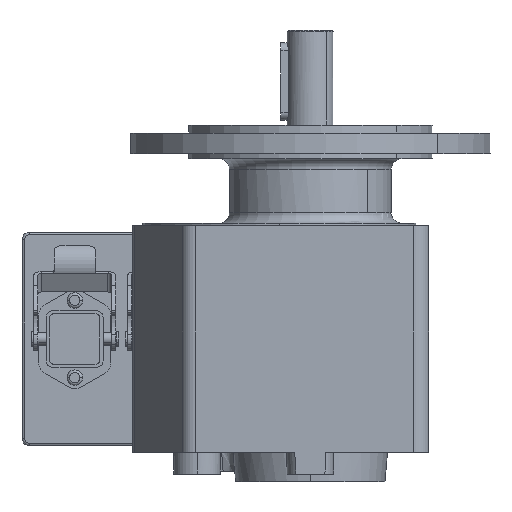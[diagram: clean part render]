
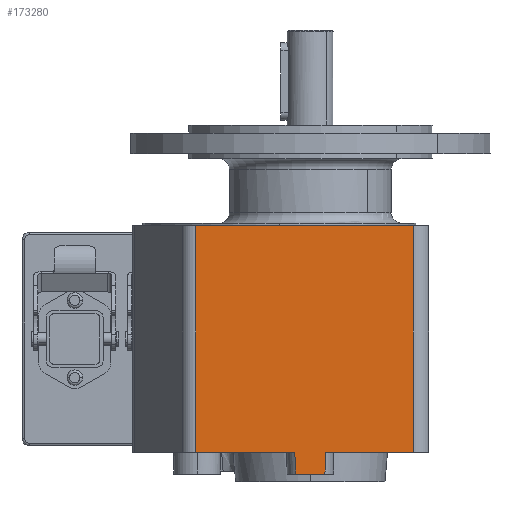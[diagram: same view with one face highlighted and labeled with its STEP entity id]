
A CAD part, left-side view. The second image highlights one B-rep face of the part: STEP entity #173280.
In plain terms, the highlighted planar face has unit normal (-1, 0, 0) as drawn and (0, 0, 1) by its records, which use the part's own axes.
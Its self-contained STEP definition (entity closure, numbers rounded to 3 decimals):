
#156040=CARTESIAN_POINT('',(-89.458,-334.478,262.5));
#156050=VERTEX_POINT('',#156040);
#156080=CARTESIAN_POINT('',(-89.458,-188.577,262.5));
#156090=DIRECTION('',(0.,1.,0.));
#156100=VECTOR('',#156090,1.);
#156110=LINE('',#156080,#156100);
#156120=CARTESIAN_POINT('',(-89.458,-249.942,262.5));
#156130=VERTEX_POINT('',#156120);
#156140=EDGE_CURVE('',#156050,#156130,#156110,.T.);
#170770=CARTESIAN_POINT('',(-177.458,-334.478,262.5));
#170780=VERTEX_POINT('',#170770);
#170810=CARTESIAN_POINT('',(-94.231,-334.478,262.5));
#170820=DIRECTION('',(1.,0.,0.));
#170830=VECTOR('',#170820,1.);
#170840=LINE('',#170810,#170830);
#170850=EDGE_CURVE('',#170780,#156050,#170840,.T.);
#172450=CARTESIAN_POINT('',(-94.231,-249.942,262.5));
#172460=DIRECTION('',(1.,0.,0.));
#172470=VECTOR('',#172460,1.);
#172480=LINE('',#172450,#172470);
#172490=CARTESIAN_POINT('',(-177.458,-249.942,262.5));
#172500=VERTEX_POINT('',#172490);
#172510=EDGE_CURVE('',#172500,#156130,#172480,.T.);
#172640=CARTESIAN_POINT('',(-94.231,-188.577,262.5));
#172650=DIRECTION('',(0.,0.,1.));
#172660=DIRECTION('',(-1.,0.,0.));
#172670=AXIS2_PLACEMENT_3D('',#172640,#172650,#172660);
#172680=PLANE('',#172670);
#172690=CARTESIAN_POINT('',(-177.458,-188.577,262.5));
#172700=DIRECTION('',(0.,-1.,0.));
#172710=VECTOR('',#172700,1.);
#172720=LINE('',#172690,#172710);
#172730=CARTESIAN_POINT('',(-177.458,-300.501,262.5));
#172740=VERTEX_POINT('',#172730);
#172750=EDGE_CURVE('',#172740,#170780,#172720,.T.);
#172760=ORIENTED_EDGE('',*,*,#172750,.T.);
#172770=CARTESIAN_POINT('',(-177.458,-300.501,262.5));
#172780=CARTESIAN_POINT('',(-178.166,-300.471,262.5));
#172790=CARTESIAN_POINT('',(-178.874,-300.441,262.5));
#172800=CARTESIAN_POINT('',(-179.583,-300.411,262.5));
#172810=CARTESIAN_POINT('',(-180.291,-300.381,262.5));
#172820=CARTESIAN_POINT('',(-180.999,-300.35,
262.5));
#172830=CARTESIAN_POINT('',(-181.708,-300.32,
262.5));
#172840=CARTESIAN_POINT('',(-182.416,-300.289,
262.5));
#172850=CARTESIAN_POINT('',(-183.124,-300.258,262.5));
#172860=CARTESIAN_POINT('',(-183.833,-300.227,262.5));
#172870=CARTESIAN_POINT('',(-184.541,-300.197,262.5));
#172880=CARTESIAN_POINT('',(-185.249,-300.166,262.5));
#172890=CARTESIAN_POINT('',(-185.958,-300.134,262.5));
#172900=B_SPLINE_CURVE_WITH_KNOTS('',3,(#172770,#172780,#172790,#172800,
#172810,#172820,#172830,#172840,#172850,#172860,#172870,#172880,#172890)
,.UNSPECIFIED.,.F.,.F.,(4,3,3,3,4),(0.,2.127,4.254
,6.381,8.508),.UNSPECIFIED.);
#172910=CARTESIAN_POINT('',(-185.958,-300.134,262.5));
#172920=VERTEX_POINT('',#172910);
#172930=EDGE_CURVE('',#172740,#172920,#172900,.T.);
#172940=ORIENTED_EDGE('',*,*,#172930,.F.);
#172950=CARTESIAN_POINT('',(-185.958,-188.577,262.5));
#172960=DIRECTION('',(0.,-1.,0.));
#172970=VECTOR('',#172960,1.);
#172980=LINE('',#172950,#172970);
#172990=CARTESIAN_POINT('',(-185.958,-288.821,262.5));
#173000=VERTEX_POINT('',#172990);
#173010=EDGE_CURVE('',#173000,#172920,#172980,.T.);
#173020=ORIENTED_EDGE('',*,*,#173010,.T.);
#173030=CARTESIAN_POINT('',(-185.958,-288.821,262.5));
#173040=CARTESIAN_POINT('',(-185.249,-288.79,262.5));
#173050=CARTESIAN_POINT('',(-184.541,-288.759,262.5));
#173060=CARTESIAN_POINT('',(-183.833,-288.728,262.5));
#173070=CARTESIAN_POINT('',(-183.124,-288.697,262.5));
#173080=CARTESIAN_POINT('',(-182.416,-288.666,262.5));
#173090=CARTESIAN_POINT('',(-181.708,-288.636,262.5));
#173100=CARTESIAN_POINT('',(-180.999,-288.605,262.5));
#173110=CARTESIAN_POINT('',(-180.291,-288.575,262.5));
#173120=CARTESIAN_POINT('',(-179.583,-288.544,262.5));
#173130=CARTESIAN_POINT('',(-178.874,-288.514,262.5));
#173140=CARTESIAN_POINT('',(-178.166,-288.484,262.5));
#173150=CARTESIAN_POINT('',(-177.458,-288.454,262.5));
#173160=B_SPLINE_CURVE_WITH_KNOTS('',3,(#173030,#173040,#173050,#173060,
#173070,#173080,#173090,#173100,#173110,#173120,#173130,#173140,#173150)
,.UNSPECIFIED.,.F.,.F.,(4,3,3,3,4),(0.,2.127,4.254
,6.381,8.508),.UNSPECIFIED.);
#173170=CARTESIAN_POINT('',(-177.458,-288.454,262.5));
#173180=VERTEX_POINT('',#173170);
#173190=EDGE_CURVE('',#173000,#173180,#173160,.T.);
#173200=ORIENTED_EDGE('',*,*,#173190,.F.);
#173210=EDGE_CURVE('',#172500,#173180,#172720,.T.);
#173220=ORIENTED_EDGE('',*,*,#173210,.T.);
#173230=ORIENTED_EDGE('',*,*,#172510,.F.);
#173240=ORIENTED_EDGE('',*,*,#156140,.T.);
#173250=ORIENTED_EDGE('',*,*,#170850,.T.);
#173260=EDGE_LOOP('',(#173250,#173240,#173230,#173220,#173200,#173020,
#172940,#172760));
#173270=FACE_OUTER_BOUND('',#173260,.T.);
#173280=ADVANCED_FACE('',(#173270),#172680,.T.);
